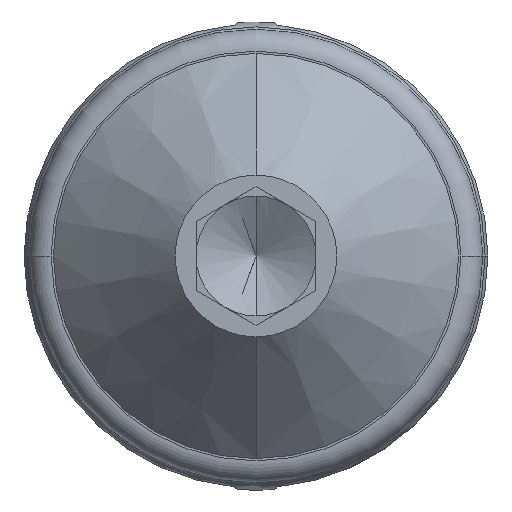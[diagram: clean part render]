
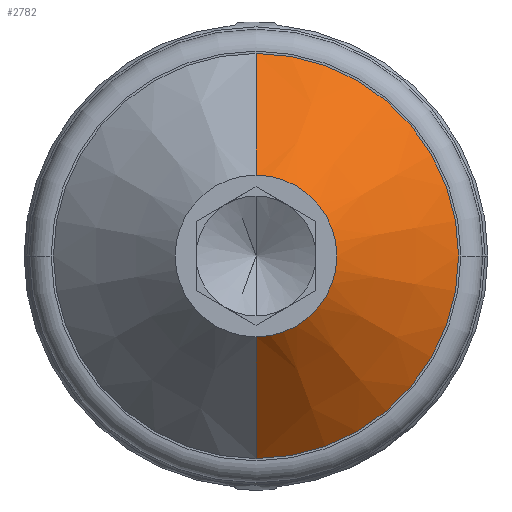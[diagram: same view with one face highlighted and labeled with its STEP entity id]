
A CAD part, front view. The second image highlights one B-rep face of the part: STEP entity #2782.
In plain terms, the highlighted conical face has half-angle 45 degrees and reference radius 13.845 mm.
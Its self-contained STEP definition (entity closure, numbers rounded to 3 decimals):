
#235 = AXIS2_PLACEMENT_3D ( 'NONE', #5444, #8673, #2195 ) ;
#275 = ORIENTED_EDGE ( 'NONE', *, *, #10157, .F. ) ;
#322 = DIRECTION ( 'NONE',  ( 0., 0., 1. ) ) ;
#461 = CARTESIAN_POINT ( 'NONE',  ( 7.078, -25.025, 32.09 ) ) ;
#793 = EDGE_LOOP ( 'NONE', ( #4567, #10127, #7814, #275 ) ) ;
#892 = CIRCLE ( 'NONE', #235, 13.845 ) ;
#1303 = FACE_OUTER_BOUND ( 'NONE', #793, .T. ) ;
#1446 = LINE ( 'NONE', #9453, #6995 ) ;
#1689 = DIRECTION ( 'NONE',  ( 0., 1., 0. ) ) ;
#2195 = DIRECTION ( 'NONE',  ( 0., 0., 1. ) ) ;
#2782 = ADVANCED_FACE ( 'NONE', ( #1303 ), #8757, .T. ) ;
#2914 = EDGE_CURVE ( 'NONE', #7250, #5042, #892, .T. ) ;
#2935 = CARTESIAN_POINT ( 'NONE',  ( 7.078, -16.707, 45.935 ) ) ;
#2992 = CARTESIAN_POINT ( 'NONE',  ( 7.078, -16.707, 18.245 ) ) ;
#3118 = VERTEX_POINT ( 'NONE', #5908 ) ;
#3982 = CARTESIAN_POINT ( 'NONE',  ( 7.078, -16.707, 18.245 ) ) ;
#4068 = LINE ( 'NONE', #2992, #5809 ) ;
#4375 = AXIS2_PLACEMENT_3D ( 'NONE', #9145, #1689, #4552 ) ;
#4402 = EDGE_CURVE ( 'NONE', #7001, #5042, #4068, .T. ) ;
#4552 = DIRECTION ( 'NONE',  ( 0., 0., 1. ) ) ;
#4567 = ORIENTED_EDGE ( 'NONE', *, *, #9590, .T. ) ;
#5042 = VERTEX_POINT ( 'NONE', #3982 ) ;
#5316 = AXIS2_PLACEMENT_3D ( 'NONE', #461, #10340, #322 ) ;
#5444 = CARTESIAN_POINT ( 'NONE',  ( 7.078, -16.707, 32.09 ) ) ;
#5809 = VECTOR ( 'NONE', #9578, 1000. ) ;
#5908 = CARTESIAN_POINT ( 'NONE',  ( 7.078, -25.025, 37.617 ) ) ;
#6864 = CARTESIAN_POINT ( 'NONE',  ( 7.078, -25.025, 26.564 ) ) ;
#6995 = VECTOR ( 'NONE', #10294, 1000. ) ;
#7001 = VERTEX_POINT ( 'NONE', #6864 ) ;
#7250 = VERTEX_POINT ( 'NONE', #2935 ) ;
#7814 = ORIENTED_EDGE ( 'NONE', *, *, #2914, .F. ) ;
#8190 = CIRCLE ( 'NONE', #5316, 5.526 ) ;
#8673 = DIRECTION ( 'NONE',  ( 0., 1., 0. ) ) ;
#8757 = CONICAL_SURFACE ( 'NONE', #4375, 13.845, 0.785 ) ;
#9145 = CARTESIAN_POINT ( 'NONE',  ( 7.078, -16.707, 32.09 ) ) ;
#9453 = CARTESIAN_POINT ( 'NONE',  ( 7.078, -16.707, 45.935 ) ) ;
#9578 = DIRECTION ( 'NONE',  ( 0., 0.707, -0.707 ) ) ;
#9590 = EDGE_CURVE ( 'NONE', #3118, #7001, #8190, .T. ) ;
#10127 = ORIENTED_EDGE ( 'NONE', *, *, #4402, .T. ) ;
#10157 = EDGE_CURVE ( 'NONE', #3118, #7250, #1446, .T. ) ;
#10294 = DIRECTION ( 'NONE',  ( 0., 0.707, 0.707 ) ) ;
#10340 = DIRECTION ( 'NONE',  ( 0., 1., 0. ) ) ;
